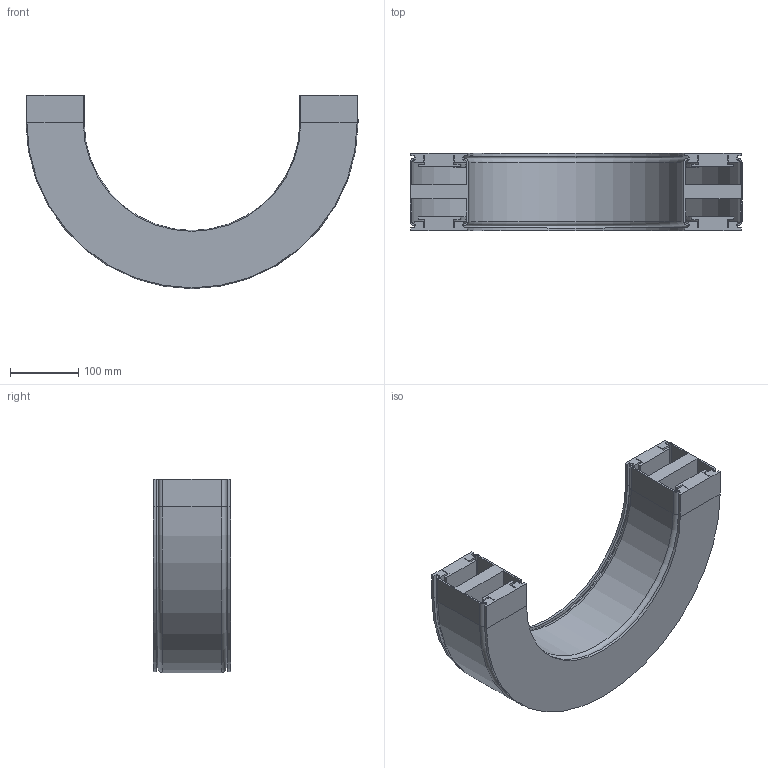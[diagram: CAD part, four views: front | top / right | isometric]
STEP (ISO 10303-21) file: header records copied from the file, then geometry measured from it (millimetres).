
FILE_DESCRIPTION (( 'STEP AP214' ), '1' );
FILE_NAME ('VC.85 Horizontale bochtsectie R200 180°.STEP', '2016-10-19T07:05:09', ( '' ), ( '' ), 'SwSTEP 2.0', 'SolidWorks 2016', '' );
FILE_SCHEMA (( 'AUTOMOTIVE_DESIGN' ));
Length unit declared in the file: millimetre
Products named in the file (1): VC.85 Horizontale bochtsectie R200 180°
Bounding box: 485 x 113 x 282.5 mm (x, y, z)
Volume: 3376646.6 mm3; surface area: 780685.4 mm2
Topology: 1 solids, 1 shells, 210 faces, 488 edges, 280 vertices
Faces by surface type: plane 152, cylinder 38, cone 12, torus 8
Entity records: 5814 total; most frequent: DIRECTION 1018, CARTESIAN_POINT 979, ORIENTED_EDGE 976, EDGE_CURVE 488, LINE 380, VECTOR 380, AXIS2_PLACEMENT_3D 319, VERTEX_POINT 280
